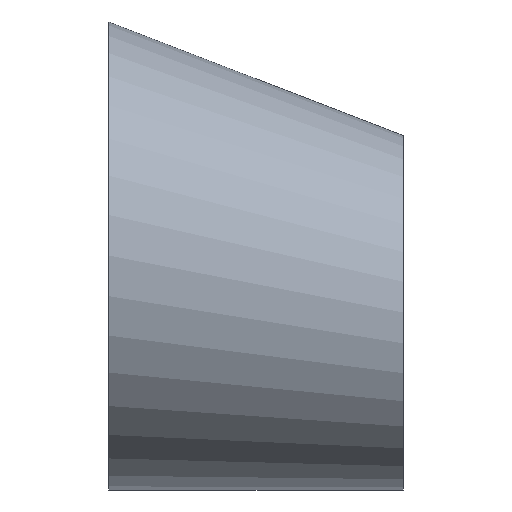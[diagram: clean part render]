
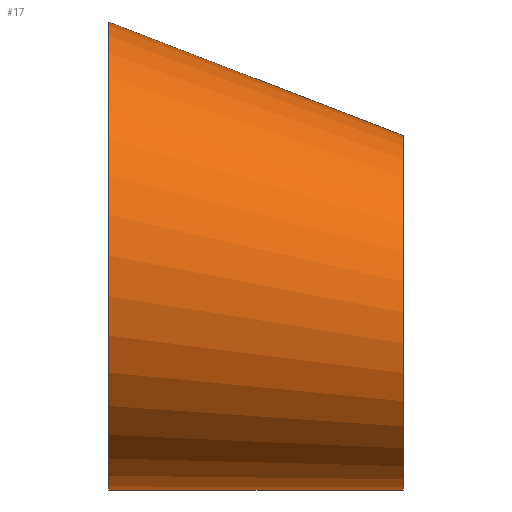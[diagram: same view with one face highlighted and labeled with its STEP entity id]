
A CAD part, top view. The second image highlights one B-rep face of the part: STEP entity #17.
In plain terms, the highlighted free-form (B-spline) face has degree [14, 1] with [15, 2] control points.
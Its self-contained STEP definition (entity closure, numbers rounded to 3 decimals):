
#17 = ADVANCED_FACE('',(#18),#31,.T.);
#18 = FACE_BOUND('',#19,.T.);
#19 = EDGE_LOOP('',(#20,#80,#102,#129));
#20 = ORIENTED_EDGE('',*,*,#21,.T.);
#21 = EDGE_CURVE('',#22,#22,#24,.T.);
#22 = VERTEX_POINT('',#23);
#23 = CARTESIAN_POINT('',(0.,35.,0.));
#24 = SURFACE_CURVE('',#25,(#30,#68),.PCURVE_S1.);
#25 = CIRCLE('',#26,35.);
#26 = AXIS2_PLACEMENT_3D('',#27,#28,#29);
#27 = CARTESIAN_POINT('',(0.,0.,0.));
#28 = DIRECTION('',(1.,0.,0.));
#29 = DIRECTION('',(0.,1.,0.));
#30 = PCURVE('',#31,#62);
#31 = B_SPLINE_SURFACE_WITH_KNOTS('',14,1,(
    (#32,#33)
    ,(#34,#35)
    ,(#36,#37)
    ,(#38,#39)
    ,(#40,#41)
    ,(#42,#43)
    ,(#44,#45)
    ,(#46,#47)
    ,(#48,#49)
    ,(#50,#51)
    ,(#52,#53)
    ,(#54,#55)
    ,(#56,#57)
    ,(#58,#59)
    ,(#60,#61
    )),.UNSPECIFIED.,.T.,.F.,.F.,(15,15),(2,2),(0.,6.283),(0.,1.
    ),.PIECEWISE_BEZIER_KNOTS.);
#32 = CARTESIAN_POINT('',(0.,35.,0.));
#33 = CARTESIAN_POINT('',(44.,18.,0.));
#34 = CARTESIAN_POINT('',(0.,35.,15.708));
#35 = CARTESIAN_POINT('',(44.,18.,
    11.893));
#36 = CARTESIAN_POINT('',(0.,27.408,31.416));
#37 = CARTESIAN_POINT('',(44.,12.252,23.786));
#38 = CARTESIAN_POINT('',(0.,12.224,43.149));
#39 = CARTESIAN_POINT('',(44.,0.755,32.67
    ));
#40 = CARTESIAN_POINT('',(0.,-8.281,46.931));
#41 = CARTESIAN_POINT('',(44.,-14.77,
    35.534));
#42 = CARTESIAN_POINT('',(0.,-29.567,40.214));
#43 = CARTESIAN_POINT('',(44.,-30.887,
    30.448));
#44 = CARTESIAN_POINT('',(0.,-45.816,23.306));
#45 = CARTESIAN_POINT('',(44.,-43.19,
    17.646));
#46 = CARTESIAN_POINT('',(0.,-51.934,0.));
#47 = CARTESIAN_POINT('',(44.,-47.821,
    0.));
#48 = CARTESIAN_POINT('',(0.,-45.816,-23.306));
#49 = CARTESIAN_POINT('',(44.,-43.19,
    -17.646));
#50 = CARTESIAN_POINT('',(0.,-29.567,-40.214));
#51 = CARTESIAN_POINT('',(44.,-30.887,
    -30.448));
#52 = CARTESIAN_POINT('',(0.,-8.281,-46.931));
#53 = CARTESIAN_POINT('',(44.,-14.77,
    -35.534));
#54 = CARTESIAN_POINT('',(0.,12.224,-43.149));
#55 = CARTESIAN_POINT('',(44.,0.755,-32.67
    ));
#56 = CARTESIAN_POINT('',(0.,27.408,-31.416));
#57 = CARTESIAN_POINT('',(44.,12.252,
    -23.786));
#58 = CARTESIAN_POINT('',(0.,35.,-15.708));
#59 = CARTESIAN_POINT('',(44.,18.,
    -11.893));
#60 = CARTESIAN_POINT('',(0.,35.,0.));
#61 = CARTESIAN_POINT('',(44.,18.,0.));
#62 = DEFINITIONAL_REPRESENTATION('',(#63),#67);
#63 = LINE('',#64,#65);
#64 = CARTESIAN_POINT('',(0.,0.));
#65 = VECTOR('',#66,1.);
#66 = DIRECTION('',(1.,0.));
#67 = ( GEOMETRIC_REPRESENTATION_CONTEXT(2) 
PARAMETRIC_REPRESENTATION_CONTEXT() REPRESENTATION_CONTEXT('2D SPACE',''
  ) );
#68 = PCURVE('',#69,#74);
#69 = PLANE('',#70);
#70 = AXIS2_PLACEMENT_3D('',#71,#72,#73);
#71 = CARTESIAN_POINT('',(0.,0.,0.));
#72 = DIRECTION('',(1.,0.,0.));
#73 = DIRECTION('',(0.,1.,0.));
#74 = DEFINITIONAL_REPRESENTATION('',(#75),#79);
#75 = CIRCLE('',#76,35.);
#76 = AXIS2_PLACEMENT_2D('',#77,#78);
#77 = CARTESIAN_POINT('',(0.,0.));
#78 = DIRECTION('',(1.,0.));
#79 = ( GEOMETRIC_REPRESENTATION_CONTEXT(2) 
PARAMETRIC_REPRESENTATION_CONTEXT() REPRESENTATION_CONTEXT('2D SPACE',''
  ) );
#80 = ORIENTED_EDGE('',*,*,#81,.T.);
#81 = EDGE_CURVE('',#22,#82,#84,.T.);
#82 = VERTEX_POINT('',#83);
#83 = CARTESIAN_POINT('',(44.,18.,0.));
#84 = SEAM_CURVE('',#85,(#88,#95),.PCURVE_S1.);
#85 = B_SPLINE_CURVE_WITH_KNOTS('',1,(#86,#87),.UNSPECIFIED.,.F.,.F.,(2,
    2),(0.,1.),.PIECEWISE_BEZIER_KNOTS.);
#86 = CARTESIAN_POINT('',(0.,35.,0.));
#87 = CARTESIAN_POINT('',(44.,18.,0.));
#88 = PCURVE('',#31,#89);
#89 = DEFINITIONAL_REPRESENTATION('',(#90),#94);
#90 = LINE('',#91,#92);
#91 = CARTESIAN_POINT('',(6.283,0.));
#92 = VECTOR('',#93,1.);
#93 = DIRECTION('',(0.,1.));
#94 = ( GEOMETRIC_REPRESENTATION_CONTEXT(2) 
PARAMETRIC_REPRESENTATION_CONTEXT() REPRESENTATION_CONTEXT('2D SPACE',''
  ) );
#95 = PCURVE('',#31,#96);
#96 = DEFINITIONAL_REPRESENTATION('',(#97),#101);
#97 = LINE('',#98,#99);
#98 = CARTESIAN_POINT('',(0.,0.));
#99 = VECTOR('',#100,1.);
#100 = DIRECTION('',(0.,1.));
#101 = ( GEOMETRIC_REPRESENTATION_CONTEXT(2) 
PARAMETRIC_REPRESENTATION_CONTEXT() REPRESENTATION_CONTEXT('2D SPACE',''
  ) );
#102 = ORIENTED_EDGE('',*,*,#103,.F.);
#103 = EDGE_CURVE('',#82,#82,#104,.T.);
#104 = SURFACE_CURVE('',#105,(#110,#117),.PCURVE_S1.);
#105 = CIRCLE('',#106,26.5);
#106 = AXIS2_PLACEMENT_3D('',#107,#108,#109);
#107 = CARTESIAN_POINT('',(44.,-8.5,0.));
#108 = DIRECTION('',(1.,0.,0.));
#109 = DIRECTION('',(0.,1.,0.));
#110 = PCURVE('',#31,#111);
#111 = DEFINITIONAL_REPRESENTATION('',(#112),#116);
#112 = LINE('',#113,#114);
#113 = CARTESIAN_POINT('',(0.,1.));
#114 = VECTOR('',#115,1.);
#115 = DIRECTION('',(1.,0.));
#116 = ( GEOMETRIC_REPRESENTATION_CONTEXT(2) 
PARAMETRIC_REPRESENTATION_CONTEXT() REPRESENTATION_CONTEXT('2D SPACE',''
  ) );
#117 = PCURVE('',#118,#123);
#118 = PLANE('',#119);
#119 = AXIS2_PLACEMENT_3D('',#120,#121,#122);
#120 = CARTESIAN_POINT('',(44.,-8.5,0.));
#121 = DIRECTION('',(1.,0.,0.));
#122 = DIRECTION('',(0.,1.,0.));
#123 = DEFINITIONAL_REPRESENTATION('',(#124),#128);
#124 = CIRCLE('',#125,26.5);
#125 = AXIS2_PLACEMENT_2D('',#126,#127);
#126 = CARTESIAN_POINT('',(0.,0.));
#127 = DIRECTION('',(1.,0.));
#128 = ( GEOMETRIC_REPRESENTATION_CONTEXT(2) 
PARAMETRIC_REPRESENTATION_CONTEXT() REPRESENTATION_CONTEXT('2D SPACE',''
  ) );
#129 = ORIENTED_EDGE('',*,*,#81,.F.);
